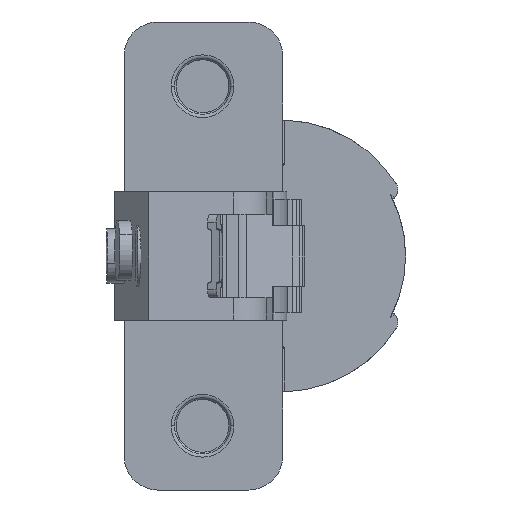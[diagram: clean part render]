
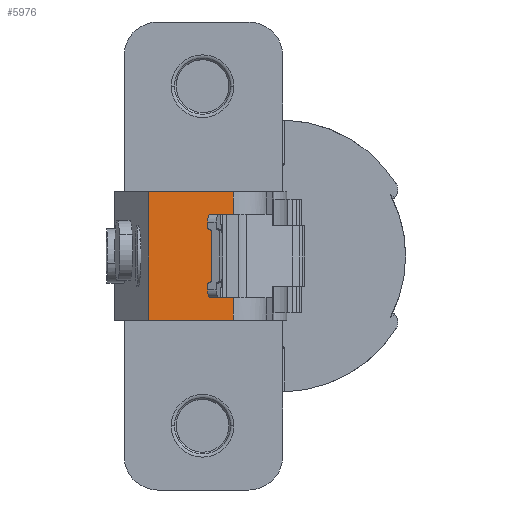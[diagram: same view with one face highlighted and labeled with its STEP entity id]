
A CAD part, left-side view. The second image highlights one B-rep face of the part: STEP entity #5976.
In plain terms, the highlighted planar face has unit normal (-0.996, -0.085, 0).
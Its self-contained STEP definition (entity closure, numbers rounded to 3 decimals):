
#315 = CARTESIAN_POINT ( 'NONE',  ( -73.161, 22.103, 8.5 ) ) ;
#618 = VECTOR ( 'NONE', #7855, 1000. ) ;
#836 = VECTOR ( 'NONE', #7112, 1000. ) ;
#926 = VECTOR ( 'NONE', #12426, 1000. ) ;
#1152 = LINE ( 'NONE', #6512, #4408 ) ;
#1510 = VECTOR ( 'NONE', #9716, 1000. ) ;
#1596 = LINE ( 'NONE', #9105, #618 ) ;
#1723 = VERTEX_POINT ( 'NONE', #2287 ) ;
#1806 = VERTEX_POINT ( 'NONE', #6669 ) ;
#2136 = VERTEX_POINT ( 'NONE', #10686 ) ;
#2266 = LINE ( 'NONE', #6510, #1510 ) ;
#2287 = CARTESIAN_POINT ( 'NONE',  ( -72.211, 10.927, -8.5 ) ) ;
#2425 = ORIENTED_EDGE ( 'NONE', *, *, #12210, .T. ) ;
#2671 = VERTEX_POINT ( 'NONE', #4681 ) ;
#2860 = ORIENTED_EDGE ( 'NONE', *, *, #12480, .F. ) ;
#2923 = ORIENTED_EDGE ( 'NONE', *, *, #7071, .F. ) ;
#3276 = VECTOR ( 'NONE', #6546, 1000. ) ;
#3550 = CARTESIAN_POINT ( 'NONE',  ( -72.211, 10.927, 8.5 ) ) ;
#3966 = VERTEX_POINT ( 'NONE', #3550 ) ;
#4408 = VECTOR ( 'NONE', #9646, 1000. ) ;
#4531 = LINE ( 'NONE', #8556, #3276 ) ;
#4681 = CARTESIAN_POINT ( 'NONE',  ( -72.211, 10.927, 5.5 ) ) ;
#4947 = LINE ( 'NONE', #9188, #836 ) ;
#5125 = LINE ( 'NONE', #10122, #11149 ) ;
#5247 = ORIENTED_EDGE ( 'NONE', *, *, #12390, .F. ) ;
#5332 = VERTEX_POINT ( 'NONE', #9408 ) ;
#5527 = VERTEX_POINT ( 'NONE', #7533 ) ;
#5539 = VECTOR ( 'NONE', #12731, 1000. ) ;
#5712 = EDGE_CURVE ( 'NONE', #5527, #5332, #9519, .T. ) ;
#5976 = ADVANCED_FACE ( 'NONE', ( #7767 ), #11991, .F. ) ;
#6510 = CARTESIAN_POINT ( 'NONE',  ( -73.248, 23.127, -8.5 ) ) ;
#6512 = CARTESIAN_POINT ( 'NONE',  ( -73.161, 22.103, -7.6 ) ) ;
#6546 = DIRECTION ( 'NONE',  ( 0., 0., -1. ) ) ;
#6669 = CARTESIAN_POINT ( 'NONE',  ( -73.161, 22.103, -8.5 ) ) ;
#7071 = EDGE_CURVE ( 'NONE', #2671, #2136, #5125, .T. ) ;
#7112 = DIRECTION ( 'NONE',  ( -0.085, 0.996, 0. ) ) ;
#7135 = DIRECTION ( 'NONE',  ( -0.085, 0.996, 0. ) ) ;
#7533 = CARTESIAN_POINT ( 'NONE',  ( -72.461, 13.872, -5.5 ) ) ;
#7767 = FACE_OUTER_BOUND ( 'NONE', #11384, .T. ) ;
#7855 = DIRECTION ( 'NONE',  ( 0., 0., -1. ) ) ;
#8407 = VERTEX_POINT ( 'NONE', #315 ) ;
#8556 = CARTESIAN_POINT ( 'NONE',  ( -72.211, 10.927, -24.5 ) ) ;
#8931 = CARTESIAN_POINT ( 'NONE',  ( -72.145, 10.153, -20.5 ) ) ;
#9105 = CARTESIAN_POINT ( 'NONE',  ( -72.211, 10.927, -24.5 ) ) ;
#9188 = CARTESIAN_POINT ( 'NONE',  ( -72.145, 10.153, 8.5 ) ) ;
#9408 = CARTESIAN_POINT ( 'NONE',  ( -72.211, 10.927, -5.5 ) ) ;
#9519 = LINE ( 'NONE', #11591, #926 ) ;
#9646 = DIRECTION ( 'NONE',  ( 0., 0., -1. ) ) ;
#9716 = DIRECTION ( 'NONE',  ( -0.085, 0.996, 0. ) ) ;
#10122 = CARTESIAN_POINT ( 'NONE',  ( -73.034, 20.609, 5.5 ) ) ;
#10279 = AXIS2_PLACEMENT_3D ( 'NONE', #8931, #12128, #12057 ) ;
#10462 = CARTESIAN_POINT ( 'NONE',  ( -72.461, 13.872, -86.053 ) ) ;
#10654 = ORIENTED_EDGE ( 'NONE', *, *, #10865, .F. ) ;
#10686 = CARTESIAN_POINT ( 'NONE',  ( -72.461, 13.872, 5.5 ) ) ;
#10710 = EDGE_CURVE ( 'NONE', #1723, #1806, #2266, .T. ) ;
#10865 = EDGE_CURVE ( 'NONE', #2136, #5527, #13520, .T. ) ;
#10911 = ORIENTED_EDGE ( 'NONE', *, *, #10710, .F. ) ;
#11149 = VECTOR ( 'NONE', #7135, 1000. ) ;
#11384 = EDGE_LOOP ( 'NONE', ( #2923, #2860, #2425, #13196, #10911, #5247, #12644, #10654 ) ) ;
#11538 = EDGE_CURVE ( 'NONE', #8407, #1806, #1152, .T. ) ;
#11591 = CARTESIAN_POINT ( 'NONE',  ( -73.034, 20.609, -5.5 ) ) ;
#11991 = PLANE ( 'NONE',  #10279 ) ;
#12057 = DIRECTION ( 'NONE',  ( 0., 0., -1. ) ) ;
#12128 = DIRECTION ( 'NONE',  ( 0.996, 0.085, 0. ) ) ;
#12210 = EDGE_CURVE ( 'NONE', #3966, #8407, #4947, .T. ) ;
#12390 = EDGE_CURVE ( 'NONE', #5332, #1723, #4531, .T. ) ;
#12426 = DIRECTION ( 'NONE',  ( 0.085, -0.996, 0. ) ) ;
#12480 = EDGE_CURVE ( 'NONE', #3966, #2671, #1596, .T. ) ;
#12644 = ORIENTED_EDGE ( 'NONE', *, *, #5712, .F. ) ;
#12731 = DIRECTION ( 'NONE',  ( 0., 0., -1. ) ) ;
#13196 = ORIENTED_EDGE ( 'NONE', *, *, #11538, .T. ) ;
#13520 = LINE ( 'NONE', #10462, #5539 ) ;
